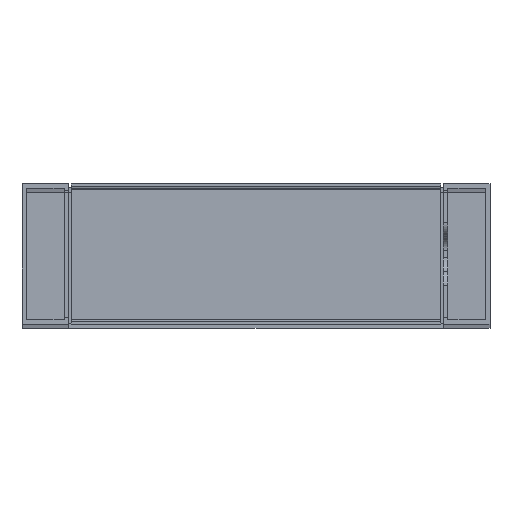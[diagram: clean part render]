
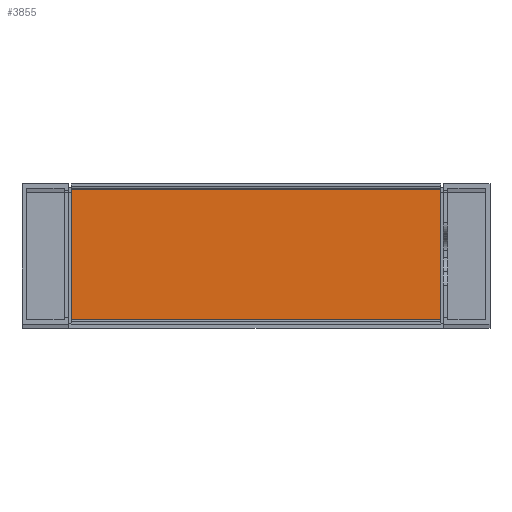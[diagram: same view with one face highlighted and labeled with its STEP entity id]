
A CAD part, top view. The second image highlights one B-rep face of the part: STEP entity #3855.
In plain terms, the highlighted planar face has unit normal (0, 0, 1).
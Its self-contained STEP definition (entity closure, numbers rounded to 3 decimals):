
#3604=DIRECTION('',(1.,0.,0.));
#3605=VECTOR('',#3604,158.);
#3606=CARTESIAN_POINT('',(-79.,27.8,969.2));
#3607=LINE('',#3606,#3605);
#3608=DIRECTION('',(0.,-1.,0.));
#3609=VECTOR('',#3608,55.6);
#3610=CARTESIAN_POINT('',(79.,27.8,969.2));
#3611=LINE('',#3610,#3609);
#3612=DIRECTION('',(-1.,0.,0.));
#3613=VECTOR('',#3612,158.);
#3614=CARTESIAN_POINT('',(79.,-27.8,969.2));
#3615=LINE('',#3614,#3613);
#3616=DIRECTION('',(0.,1.,0.));
#3617=VECTOR('',#3616,55.6);
#3618=CARTESIAN_POINT('',(-79.,-27.8,969.2));
#3619=LINE('',#3618,#3617);
#3792=CARTESIAN_POINT('',(-79.,27.8,969.2));
#3793=CARTESIAN_POINT('',(79.,27.8,969.2));
#3794=VERTEX_POINT('',#3792);
#3795=VERTEX_POINT('',#3793);
#3800=CARTESIAN_POINT('',(79.,-27.8,969.2));
#3801=CARTESIAN_POINT('',(-79.,-27.8,969.2));
#3802=VERTEX_POINT('',#3800);
#3803=VERTEX_POINT('',#3801);
#3840=CARTESIAN_POINT('',(0.,0.,969.2));
#3841=DIRECTION('',(0.,0.,1.));
#3842=DIRECTION('',(1.,0.,0.));
#3843=AXIS2_PLACEMENT_3D('',#3840,#3841,#3842);
#3844=PLANE('',#3843);
#3846=ORIENTED_EDGE('',*,*,#3845,.T.);
#3848=ORIENTED_EDGE('',*,*,#3847,.T.);
#3850=ORIENTED_EDGE('',*,*,#3849,.T.);
#3852=ORIENTED_EDGE('',*,*,#3851,.T.);
#3853=EDGE_LOOP('',(#3846,#3848,#3850,#3852));
#3854=FACE_OUTER_BOUND('',#3853,.F.);
#3855=ADVANCED_FACE('',(#3854),#3844,.T.);
#3845=EDGE_CURVE('',#3794,#3795,#3607,.T.);
#3847=EDGE_CURVE('',#3795,#3802,#3611,.T.);
#3849=EDGE_CURVE('',#3802,#3803,#3615,.T.);
#3851=EDGE_CURVE('',#3803,#3794,#3619,.T.);
